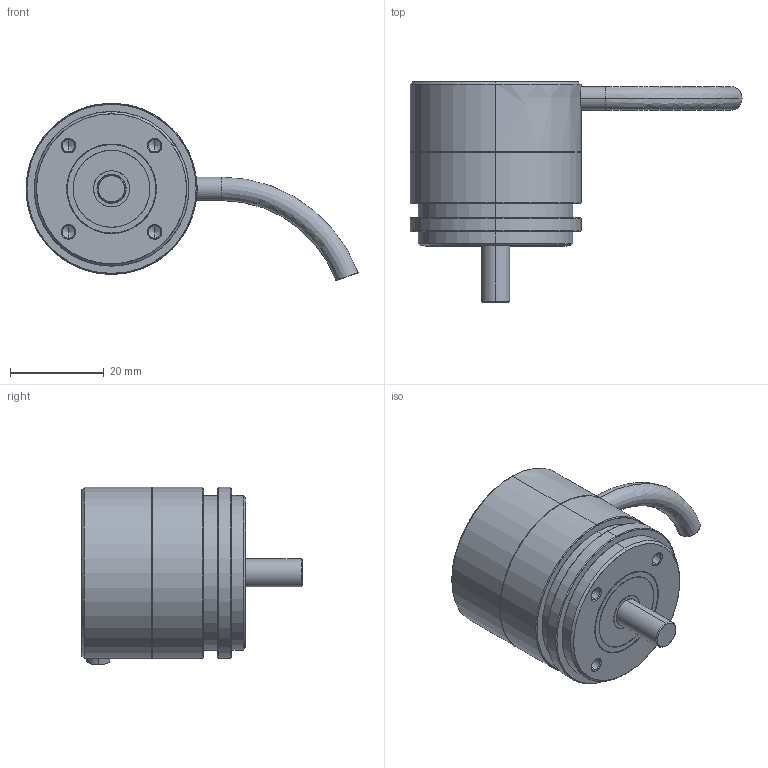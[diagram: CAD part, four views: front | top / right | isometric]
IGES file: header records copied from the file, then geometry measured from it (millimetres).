
Start section: SolidWorks IGES file using analytic representation for surfaces
Global section: file name: D:\CERAR\LETO-2023\RE36IP53radial-3D.IGS; native system: SolidWorks 2022; preprocessor: SolidWorks 2022; author: cerar; date: 230517.122941; units: millimetre
Bounding box: 70.83 x 47 x 37.86 mm (x, y, z)
Surface area: 7406 mm2 (no closed solid volume)
Topology: 0 solids, 0 shells, 77 faces, 1558 edges, 1550 vertices
Faces by surface type: revolution 62, bspline 15
